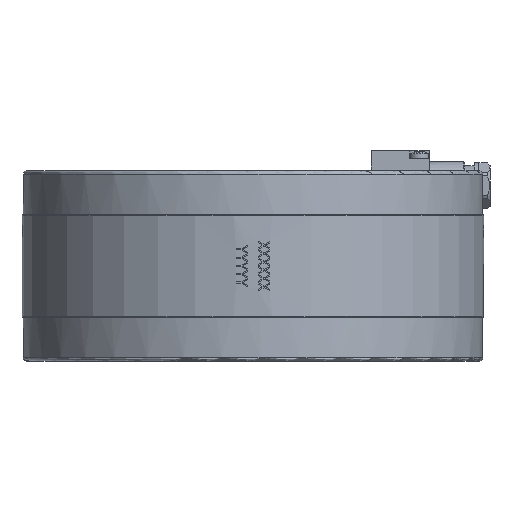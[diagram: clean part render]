
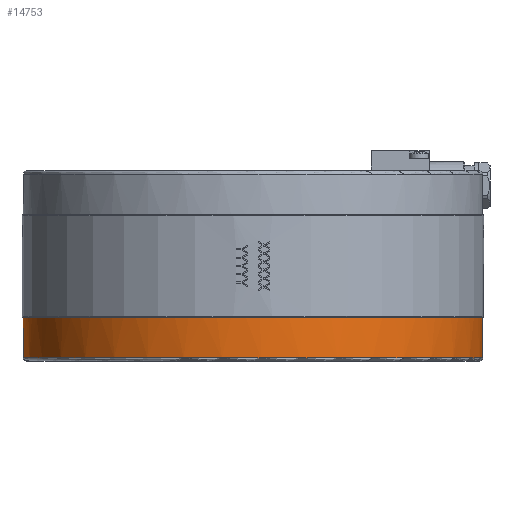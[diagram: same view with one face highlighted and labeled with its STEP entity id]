
A CAD part, front view. The second image highlights one B-rep face of the part: STEP entity #14753.
In plain terms, the highlighted cylindrical face has radius 72.5 mm (diameter 145 mm), a full revolution.
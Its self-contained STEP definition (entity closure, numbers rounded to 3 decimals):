
#4739=ELLIPSE('',#35947,102.53,72.5);
#4740=ELLIPSE('',#35949,102.53,72.5);
#9239=LINE('',#54590,#11124);
#9241=LINE('',#54604,#11126);
#11124=VECTOR('',#41641,1.);
#11126=VECTOR('',#41643,1.);
#14753=ADVANCED_FACE('BCT_REF_437677',(#16137,#16138),#15577,.T.);
#15577=CYLINDRICAL_SURFACE('',#35950,72.5);
#16137=FACE_BOUND('',#17966,.T.);
#16138=FACE_BOUND('',#17967,.T.);
#17966=EDGE_LOOP('',(#24268));
#17967=EDGE_LOOP('',(#24269,#24270,#24271,#24272,#24273,#24274));
#24268=ORIENTED_EDGE('',*,*,#32129,.T.);
#24269=ORIENTED_EDGE('',*,*,#32130,.T.);
#24270=ORIENTED_EDGE('',*,*,#32097,.T.);
#24271=ORIENTED_EDGE('',*,*,#32131,.T.);
#24272=ORIENTED_EDGE('',*,*,#32132,.F.);
#24273=ORIENTED_EDGE('',*,*,#32133,.T.);
#24274=ORIENTED_EDGE('',*,*,#32101,.T.);
#28481=VERTEX_POINT('',#54589);
#28482=VERTEX_POINT('',#54591);
#28485=VERTEX_POINT('',#54603);
#28486=VERTEX_POINT('',#54605);
#28511=VERTEX_POINT('',#54702);
#28512=VERTEX_POINT('',#54705);
#28513=VERTEX_POINT('',#54707);
#32097=EDGE_CURVE('',#28482,#28481,#9239,.T.);
#32101=EDGE_CURVE('',#28486,#28485,#9241,.T.);
#32129=EDGE_CURVE('',#28511,#28511,#33919,.T.);
#32130=EDGE_CURVE('BCT_REF_437686',#28485,#28482,#33920,.T.);
#32131=EDGE_CURVE('',#28481,#28512,#4739,.T.);
#32132=EDGE_CURVE('',#28513,#28512,#33921,.T.);
#32133=EDGE_CURVE('',#28513,#28486,#4740,.T.);
#33919=CIRCLE('',#35945,72.5);
#33920=CIRCLE('',#35946,72.5);
#33921=CIRCLE('',#35948,72.5);
#35945=AXIS2_PLACEMENT_3D('',#54701,#41677,#41678);
#35946=AXIS2_PLACEMENT_3D('',#54703,#41679,#41680);
#35947=AXIS2_PLACEMENT_3D('',#54704,#41681,#41682);
#35948=AXIS2_PLACEMENT_3D('',#54706,#41683,#41684);
#35949=AXIS2_PLACEMENT_3D('',#54708,#41685,#41686);
#35950=AXIS2_PLACEMENT_3D('',#54709,#41687,#41688);
#41641=DIRECTION('',(0.,0.,1.));
#41643=DIRECTION('',(0.,0.,-1.));
#41677=DIRECTION('',(0.,0.,1.));
#41678=DIRECTION('',(1.,0.,0.));
#41679=DIRECTION('',(0.,0.,-1.));
#41680=DIRECTION('',(-1.,0.,0.));
#41681=DIRECTION('',(0.,0.707,-0.707));
#41682=DIRECTION('',(0.,-0.707,-0.707));
#41683=DIRECTION('',(0.,0.,1.));
#41684=DIRECTION('',(1.,0.,0.));
#41685=DIRECTION('',(0.,0.707,-0.707));
#41686=DIRECTION('',(0.,-0.707,-0.707));
#41687=DIRECTION('',(0.,0.,-1.));
#41688=DIRECTION('',(-1.,0.,0.));
#54589=CARTESIAN_POINT('',(18.875,70.,-15.85));
#54590=CARTESIAN_POINT('',(18.875,70.,30.));
#54591=CARTESIAN_POINT('',(18.875,70.,-16.55));
#54603=CARTESIAN_POINT('',(-18.875,70.,-16.55));
#54604=CARTESIAN_POINT('',(-18.875,70.,30.));
#54605=CARTESIAN_POINT('',(-18.875,70.,-15.85));
#54701=CARTESIAN_POINT('',(0.,0.,-29.));
#54702=CARTESIAN_POINT('',(72.5,0.,-29.));
#54703=CARTESIAN_POINT('',(0.,0.,-16.55));
#54704=CARTESIAN_POINT('',(0.,0.,-85.85));
#54705=CARTESIAN_POINT('',(19.778,69.75,-16.1));
#54706=CARTESIAN_POINT('',(0.,0.,-16.1));
#54707=CARTESIAN_POINT('',(-19.778,69.75,-16.1));
#54708=CARTESIAN_POINT('',(0.,0.,-85.85));
#54709=CARTESIAN_POINT('',(0.,0.,30.));
